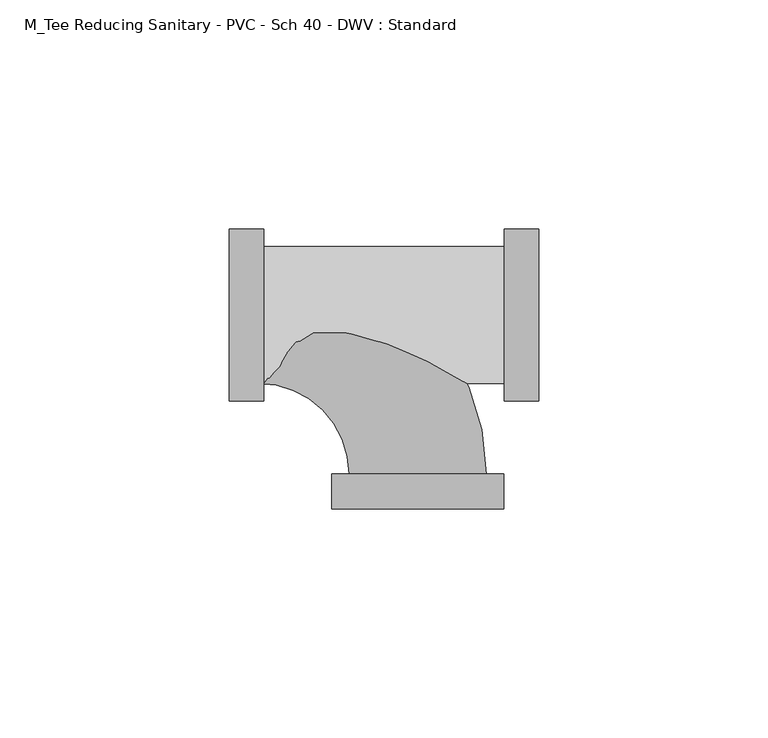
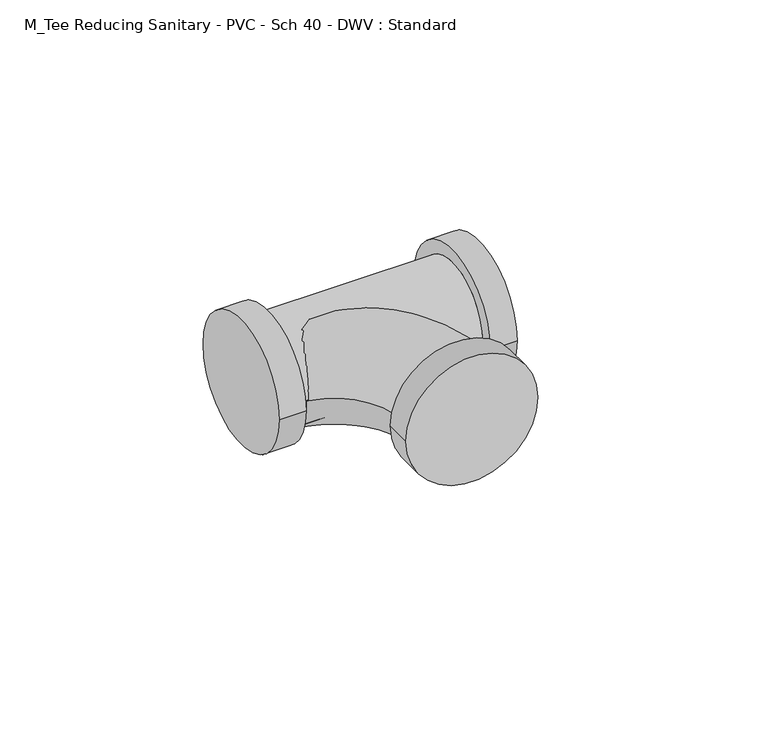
"""IFC4 building model written with IfcOpenShell, lengths in millimetres: pipe fitting geometry, M_Tee Reducing Sanitary - PVC - Sch 40 - DWV : Standard."""

from ifc_helpers import new_model, si_unit, point, frame, origin, place, context, project, spatial, circle_curve, ellipse_curve, trimmed, source, transform, mapped, element, save
from ifc_brep_helpers import plane_surface, cylinder_surface, revolved_surface, advanced_brep


def m_tee_reducing_sanitary_pvc_sch_40_dwv_standard_7acfb5fe(model_context):
    return source(origin(), model_context, "Body", "AdvancedBrep", [
        advanced_brep(
        [(18.866925, -18.7871094, 0.0), (18.866925, 18.7871094, 0.0), (18.866925, -14.9640625, 0.0), (18.866925, 14.9640625, 0.0), (26.4872375, -18.7871094, 0.0), (26.4872375, 18.7871094, 0.0), (-33.5351062, 14.9640625, 0.0), (-33.5351062, -14.9640625, 0.0), (-41.1554187, -18.7871094, 0.0), (-41.1554187, 18.7871094, 0.0), (-33.5351062, -18.7871094, 0.0), (-33.5351062, 18.7871094, 0.0)],
        [
            (0, 1, circle_curve(frame((18.866925, 0.0, 0.0), z_axis=(-1.0, 0.0, 0.0), x_axis=(0.0, 1.0, 0.0)), 18.7871094)),
            (1, 0, circle_curve(frame((18.866925, 0.0, 0.0), z_axis=(-1.0, 0.0, 0.0), x_axis=(0.0, 1.0, 0.0)), 18.7871094)),
            (2, 3, circle_curve(frame((18.866925, 0.0, 0.0), z_axis=(1.0, 0.0, 0.0), x_axis=(0.0, 0.0, -1.0)), 14.9640625)),
            (3, 2, circle_curve(frame((18.866925, 0.0, 0.0), z_axis=(1.0, 0.0, 0.0), x_axis=(0.0, 0.0, 1.0)), 14.9640625)),
            (4, 5, circle_curve(frame((26.4872375, 0.0, 0.0), z_axis=(1.0, 0.0, 0.0), x_axis=(0.0, 1.0, 0.0)), 18.7871094)),
            (5, 4, circle_curve(frame((26.4872375, 0.0, 0.0), z_axis=(1.0, 0.0, 0.0), x_axis=(0.0, 1.0, 0.0)), 18.7871094)),
            (0, 4),
            (5, 1),
            (6, 3),
            (2, 7),
            (7, 6, circle_curve(frame((-33.5351062, 0.0, 0.0), z_axis=(1.0, 0.0, 0.0), x_axis=(0.0, 0.0, -1.0)), 14.9640625)),
            (6, 7, circle_curve(frame((-33.5351062, 0.0, 0.0), z_axis=(1.0, 0.0, 0.0), x_axis=(0.0, 0.0, 1.0)), 14.9640625)),
            (8, 9, circle_curve(frame((-41.1554187, 0.0, 0.0), z_axis=(-1.0, 0.0, 0.0), x_axis=(0.0, 1.0, 0.0)), 18.7871094)),
            (9, 8, circle_curve(frame((-41.1554187, 0.0, 0.0), z_axis=(-1.0, 0.0, 0.0), x_axis=(0.0, 1.0, 0.0)), 18.7871094)),
            (10, 11, circle_curve(frame((-33.5351062, 0.0, 0.0), z_axis=(1.0, 0.0, 0.0), x_axis=(0.0, 1.0, 0.0)), 18.7871094)),
            (11, 10, circle_curve(frame((-33.5351062, 0.0, 0.0), z_axis=(1.0, 0.0, 0.0), x_axis=(0.0, 1.0, 0.0)), 18.7871094)),
            (8, 10),
            (11, 9),
        ],
        [
            plane_surface(frame((18.866925, 0.0, 0.0), z_axis=(-1.0, 0.0, 0.0), x_axis=(0.0, 0.0, 1.0))),
            plane_surface(frame((26.4872375, 0.0, 0.0), z_axis=(1.0, 0.0, 0.0), x_axis=(0.0, 0.0, 1.0))),
            cylinder_surface(frame((18.866925, 0.0, 0.0), z_axis=(-1.0, 0.0, 0.0), x_axis=(0.0, 1.0, 0.0)), 18.7871094),
            cylinder_surface(frame((-33.5351062, 0.0, 0.0), z_axis=(1.0, 0.0, 0.0), x_axis=(0.0, 0.0, -1.0)), 14.9640625),
            cylinder_surface(frame((-33.5351062, 0.0, 0.0), z_axis=(1.0, 0.0, 0.0), x_axis=(0.0, 0.0, 1.0)), 14.9640625),
            plane_surface(frame((-41.1554187, 0.0, 0.0), z_axis=(-1.0, 0.0, 0.0), x_axis=(0.0, 0.0, 1.0))),
            plane_surface(frame((-33.5351062, 0.0, 0.0), z_axis=(1.0, 0.0, 0.0), x_axis=(0.0, 0.0, 1.0))),
            cylinder_surface(frame((-41.1554187, 0.0, 0.0), z_axis=(-1.0, 0.0, 0.0), x_axis=(0.0, 1.0, 0.0)), 18.7871094),
        ],
        [
            (0, [[1, 2], [3, 4]]),
            (1, [[5, 6]]),
            (2, [[-1, 7, -6, 8]]),
            (2, [[-2, -8, -5, -7]]),
            (3, [[9, -3, 10, 11]]),
            (4, [[-9, 12, -10, -4]]),
            (5, [[13, 14]]),
            (6, [[15, 16], [-11, -12]]),
            (7, [[-13, 17, -16, 18]]),
            (7, [[-14, -18, -15, -17]]),
        ],
    ),
        advanced_brep(
        [(-18.7871561, -34.747631, 0.0), (18.7870626, -34.7476815, 0.0), (14.9640157, -34.7476764, 0.0), (-14.9641093, -34.7476361, 0.0), (-18.7871664, -42.3679435, 0.0), (18.7870524, -42.367994, 0.0), (-34.7476562, -14.9640625, 0.0), (-34.7476562, 14.9640625, 0.0)],
        [
            (0, 1, circle_curve(frame((-4.68e-05, -34.7476562, 0.0), z_axis=(1.345433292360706e-06, 0.999999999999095, 0.0), x_axis=(0.999999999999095, -1.345433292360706e-06, 0.0)), 18.7871094)),
            (1, 0, circle_curve(frame((-4.68e-05, -34.7476562, 0.0), z_axis=(1.345433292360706e-06, 0.999999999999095, 0.0), x_axis=(0.999999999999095, -1.345433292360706e-06, 0.0)), 18.7871094)),
            (2, 3, circle_curve(frame((-4.68e-05, -34.7476562, 0.0), z_axis=(-1.3454332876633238e-06, -0.999999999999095, 0.0), x_axis=(0.999999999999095, -1.3454332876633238e-06, 0.0)), 14.9640625)),
            (3, 2, circle_curve(frame((-4.68e-05, -34.7476562, 0.0), z_axis=(-1.3454332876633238e-06, -0.999999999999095, 0.0), x_axis=(0.999999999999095, -1.3454332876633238e-06, 0.0)), 14.9640625)),
            (4, 5, circle_curve(frame((-5.7e-05, -42.3679687, 0.0), z_axis=(-1.345433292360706e-06, -0.999999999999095, 0.0), x_axis=(0.999999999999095, -1.345433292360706e-06, 0.0)), 18.7871094)),
            (5, 4, circle_curve(frame((-5.7e-05, -42.3679687, 0.0), z_axis=(-1.345433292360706e-06, -0.999999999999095, 0.0), x_axis=(0.999999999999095, -1.345433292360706e-06, 0.0)), 18.7871094)),
            (0, 4),
            (5, 1),
            (6, 7, circle_curve(frame((-34.7476562, 0.0, 0.0), z_axis=(-1.0, 0.0, 0.0), x_axis=(0.0, 1.0, 0.0)), 14.9640625)),
            (7, 6, circle_curve(frame((-34.7476562, 0.0, 0.0), z_axis=(-1.0, 0.0, 0.0), x_axis=(0.0, 1.0, 0.0)), 14.9640625)),
            (6, 3, circle_curve(frame((-34.7476562, -34.7476095, 0.0), z_axis=(0.0, 0.0, -1.0), x_axis=(0.0, 1.0, 0.0)), 19.783547)),
            (2, 7, circle_curve(frame((-34.7476562, -34.7476095, 0.0), z_axis=(0.0, 0.0, 1.0), x_axis=(0.0, 1.0, 0.0)), 49.711672)),
        ],
        [
            plane_surface(frame((-4.68e-05, -34.7476562, 0.0), z_axis=(1.345433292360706e-06, 0.999999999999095, 0.0), x_axis=(0.0, 0.0, 1.0))),
            plane_surface(frame((-5.7e-05, -42.3679687, 0.0), z_axis=(-1.345433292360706e-06, -0.999999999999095, 0.0), x_axis=(0.0, 0.0, 1.0))),
            cylinder_surface(frame((-4.68e-05, -34.7476562, 0.0), z_axis=(1.345433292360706e-06, 0.999999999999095, 0.0), x_axis=(0.999999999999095, -1.345433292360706e-06, 0.0)), 18.7871094),
            plane_surface(frame((-34.7476562, 0.0, 0.0), z_axis=(-1.0, 0.0, 0.0), x_axis=(0.0, 0.0, 1.0))),
            revolved_surface(trimmed(ellipse_curve(frame((-34.7476562, 0.0, 0.0), z_axis=(-1.0, 0.0, 0.0), x_axis=(0.0, 1.0, 0.0)), 14.9640625, 14.9640625), [point((-34.7476562, -14.9640625, 0.0))], [point((-34.7476562, 14.9640625, 0.0))], True, "CARTESIAN"), (-34.7476562, -34.7476095, 0.0), (0.0, 0.0, -1.0)),
            revolved_surface(trimmed(ellipse_curve(frame((-34.7476562, 0.0, 0.0), z_axis=(-1.0, 0.0, 0.0), x_axis=(0.0, 1.0, 0.0)), 14.9640625, 14.9640625), [point((-34.7476562, 14.9640625, 0.0))], [point((-34.7476562, -14.9640625, 0.0))], True, "CARTESIAN"), (-34.7476562, -34.7476095, 0.0), (0.0, 0.0, -1.0)),
        ],
        [
            (0, [[1, 2], [3, 4]]),
            (1, [[5, 6]]),
            (2, [[-1, 7, -6, 8]]),
            (2, [[-2, -8, -5, -7]]),
            (3, [[9, 10]]),
            (4, [[-9, 11, -3, 12]]),
            (5, [[-10, -12, -4, -11]]),
        ],
    ),
    ])


if __name__ == "__main__":
    model = new_model("IFC4")
    model_context = context("Model", 3, world=origin())
    ifc_project = project(units=[si_unit("LENGTHUNIT", "METRE", prefix="MILLI")], contexts=[model_context])
    site = spatial("IfcSite", under=ifc_project)
    building = spatial("IfcBuilding", under=site)
    placement = place(None, origin())
    m_tee_reducing_sanitary_pvc_sch_40_dwv_standard_shape = m_tee_reducing_sanitary_pvc_sch_40_dwv_standard_7acfb5fe(model_context)
    element("IfcPipeFitting", 1, ObjectType="M_Tee Reducing Sanitary - PVC - Sch 40 - DWV : Standard", at=placement, inside=building, context=model_context, shape_type="MappedRepresentation", body=[
        mapped(m_tee_reducing_sanitary_pvc_sch_40_dwv_standard_shape, transform((0.0, 0.0, 0.0), x_axis=(1.0, 0.0, 0.0), y_axis=(0.0, 1.0, 0.0), z_axis=(0.0, 0.0, 1.0))),
    ])
    save(model, "model.ifc")
